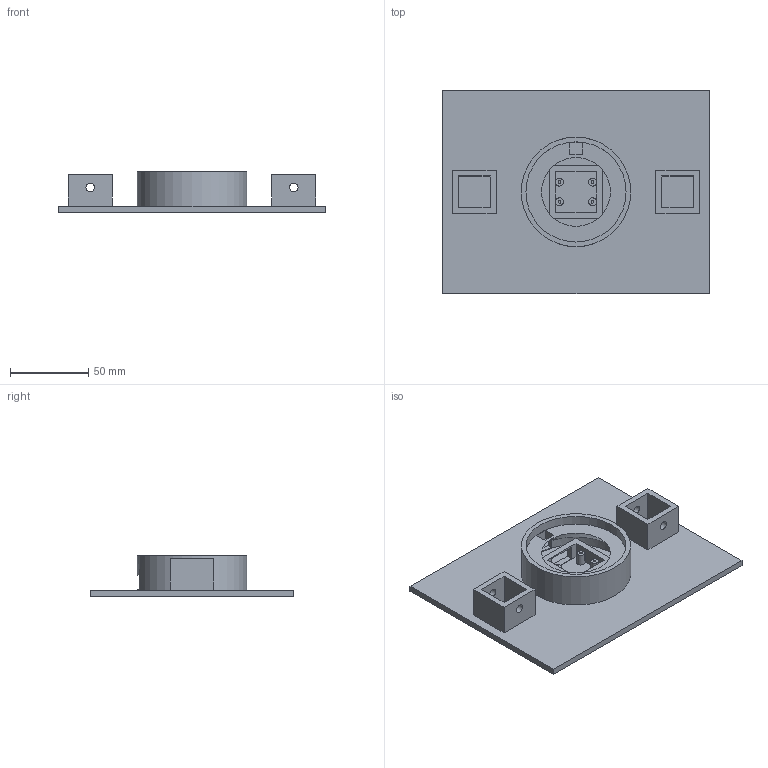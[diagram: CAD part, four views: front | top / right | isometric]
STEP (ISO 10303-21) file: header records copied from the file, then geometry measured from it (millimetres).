
FILE_DESCRIPTION(('Open CASCADE Model'),'2;1');
FILE_NAME('Open CASCADE Shape Model','2026-10-27T22:13:57',('Author'),( 'Open CASCADE'),'Open CASCADE STEP processor 7.9','Open CASCADE 7.9' ,'Unknown');
FILE_SCHEMA(('AUTOMOTIVE_DESIGN { 1 0 10303 214 1 1 1 1 }'));
Length unit declared in the file: millimetre
Products named in the file (1): Open CASCADE STEP translator 7.9 16
Bounding box: 170 x 130 x 26 mm (x, y, z)
Volume: 127988.4 mm3; surface area: 68888.5 mm2
Topology: 1 solids, 1 shells, 84 faces, 213 edges, 142 vertices
Faces by surface type: plane 68, cylinder 15, cone 1
Full cylindrical faces by diameter (mm): 1.8 x4, 5.5 x4, 64 x2, 70 x1
Entity records: 5350 total; most frequent: CARTESIAN_POINT 904, DIRECTION 846, LINE 546, VECTOR 546, ORIENTED_EDGE 426, PCURVE 426, DEFINITIONAL_REPRESENTATION 426, EDGE_CURVE 213
